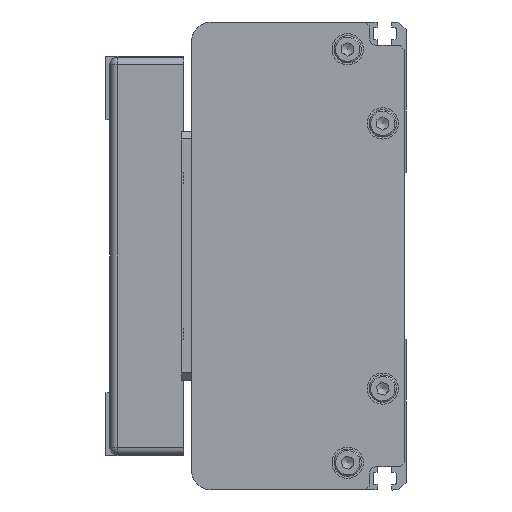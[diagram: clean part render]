
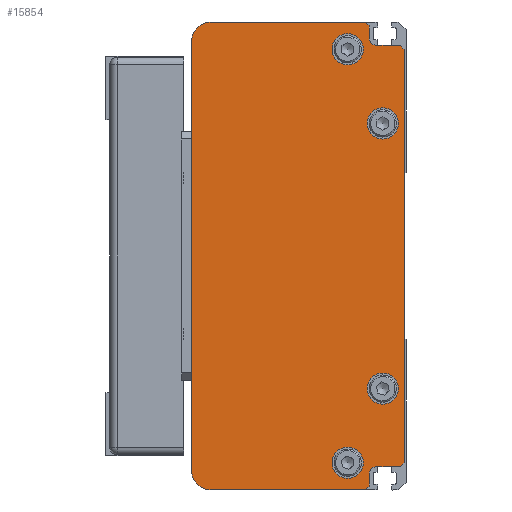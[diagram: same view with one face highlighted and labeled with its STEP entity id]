
A CAD part, left-side view. The second image highlights one B-rep face of the part: STEP entity #15854.
In plain terms, the highlighted planar face has unit normal (-1, 0, 0) as drawn and (0, 0, -1) by its records, which use the part's own axes.
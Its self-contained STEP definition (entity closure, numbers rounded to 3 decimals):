
#828=FACE_BOUND('',#2607,.T.);
#829=FACE_BOUND('',#2608,.T.);
#830=FACE_BOUND('',#2609,.T.);
#831=FACE_BOUND('',#2610,.T.);
#1144=CIRCLE('',#16986,5.);
#1145=CIRCLE('',#16988,5.);
#1146=CIRCLE('',#16989,2.);
#1147=CIRCLE('',#16990,2.);
#1148=CIRCLE('',#16991,4.);
#1149=CIRCLE('',#16992,4.);
#1150=CIRCLE('',#16993,4.);
#1151=CIRCLE('',#16994,4.);
#1576=FACE_OUTER_BOUND('',#2606,.T.);
#2606=EDGE_LOOP('',(#10916,#10917,#10918,#10919,#10920,#10921,#10922,#10923,
#10924,#10925,#10926,#10927,#10928,#10929,#10930,#10931));
#2607=EDGE_LOOP('',(#10932));
#2608=EDGE_LOOP('',(#10933));
#2609=EDGE_LOOP('',(#10934));
#2610=EDGE_LOOP('',(#10935));
#3849=LINE('',#22679,#5376);
#3850=LINE('',#22681,#5377);
#3851=LINE('',#22684,#5378);
#3852=LINE('',#22686,#5379);
#3853=LINE('',#22688,#5380);
#3854=LINE('',#22690,#5381);
#3855=LINE('',#22694,#5382);
#3856=LINE('',#22696,#5383);
#3857=LINE('',#22698,#5384);
#3858=LINE('',#22700,#5385);
#3859=LINE('',#22702,#5386);
#3860=LINE('',#22705,#5387);
#5376=VECTOR('',#18514,1.414);
#5377=VECTOR('',#18515,39.5);
#5378=VECTOR('',#18518,110.);
#5379=VECTOR('',#18519,39.5);
#5380=VECTOR('',#18520,1.414);
#5381=VECTOR('',#18521,3.);
#5382=VECTOR('',#18524,6.);
#5383=VECTOR('',#18525,1.414);
#5384=VECTOR('',#18526,106.);
#5385=VECTOR('',#18527,1.414);
#5386=VECTOR('',#18528,6.);
#5387=VECTOR('',#18531,3.);
#6937=VERTEX_POINT('',#22671);
#6938=VERTEX_POINT('',#22673);
#6939=VERTEX_POINT('',#22677);
#6940=VERTEX_POINT('',#22678);
#6941=VERTEX_POINT('',#22680);
#6942=VERTEX_POINT('',#22682);
#6943=VERTEX_POINT('',#22685);
#6944=VERTEX_POINT('',#22687);
#6945=VERTEX_POINT('',#22689);
#6946=VERTEX_POINT('',#22691);
#6947=VERTEX_POINT('',#22693);
#6948=VERTEX_POINT('',#22695);
#6949=VERTEX_POINT('',#22697);
#6950=VERTEX_POINT('',#22699);
#6951=VERTEX_POINT('',#22701);
#6952=VERTEX_POINT('',#22703);
#6953=VERTEX_POINT('',#22706);
#6954=VERTEX_POINT('',#22708);
#6955=VERTEX_POINT('',#22710);
#6956=VERTEX_POINT('',#22712);
#8525=EDGE_CURVE('',#6937,#6938,#1144,.T.);
#8527=EDGE_CURVE('',#6939,#6940,#3849,.T.);
#8528=EDGE_CURVE('',#6939,#6941,#3850,.T.);
#8529=EDGE_CURVE('',#6942,#6941,#1145,.T.);
#8530=EDGE_CURVE('',#6942,#6938,#3851,.T.);
#8531=EDGE_CURVE('',#6937,#6943,#3852,.T.);
#8532=EDGE_CURVE('',#6944,#6943,#3853,.T.);
#8533=EDGE_CURVE('',#6944,#6945,#3854,.T.);
#8534=EDGE_CURVE('',#6945,#6946,#1146,.T.);
#8535=EDGE_CURVE('',#6946,#6947,#3855,.T.);
#8536=EDGE_CURVE('',#6948,#6947,#3856,.T.);
#8537=EDGE_CURVE('',#6948,#6949,#3857,.T.);
#8538=EDGE_CURVE('',#6950,#6949,#3858,.T.);
#8539=EDGE_CURVE('',#6950,#6951,#3859,.T.);
#8540=EDGE_CURVE('',#6951,#6952,#1147,.T.);
#8541=EDGE_CURVE('',#6952,#6940,#3860,.T.);
#8542=EDGE_CURVE('',#6953,#6953,#1148,.T.);
#8543=EDGE_CURVE('',#6954,#6954,#1149,.T.);
#8544=EDGE_CURVE('',#6955,#6955,#1150,.T.);
#8545=EDGE_CURVE('',#6956,#6956,#1151,.T.);
#10916=ORIENTED_EDGE('',*,*,#8527,.F.);
#10917=ORIENTED_EDGE('',*,*,#8528,.T.);
#10918=ORIENTED_EDGE('',*,*,#8529,.F.);
#10919=ORIENTED_EDGE('',*,*,#8530,.T.);
#10920=ORIENTED_EDGE('',*,*,#8525,.F.);
#10921=ORIENTED_EDGE('',*,*,#8531,.T.);
#10922=ORIENTED_EDGE('',*,*,#8532,.F.);
#10923=ORIENTED_EDGE('',*,*,#8533,.T.);
#10924=ORIENTED_EDGE('',*,*,#8534,.T.);
#10925=ORIENTED_EDGE('',*,*,#8535,.T.);
#10926=ORIENTED_EDGE('',*,*,#8536,.F.);
#10927=ORIENTED_EDGE('',*,*,#8537,.T.);
#10928=ORIENTED_EDGE('',*,*,#8538,.F.);
#10929=ORIENTED_EDGE('',*,*,#8539,.T.);
#10930=ORIENTED_EDGE('',*,*,#8540,.T.);
#10931=ORIENTED_EDGE('',*,*,#8541,.T.);
#10932=ORIENTED_EDGE('',*,*,#8542,.T.);
#10933=ORIENTED_EDGE('',*,*,#8543,.T.);
#10934=ORIENTED_EDGE('',*,*,#8544,.T.);
#10935=ORIENTED_EDGE('',*,*,#8545,.T.);
#15230=PLANE('',#16987);
#15854=ADVANCED_FACE('',(#1576,#828,#829,#830,#831),#15230,.F.);
#16986=AXIS2_PLACEMENT_3D('',#22674,#18509,#18510);
#16987=AXIS2_PLACEMENT_3D('',#22676,#18512,#18513);
#16988=AXIS2_PLACEMENT_3D('',#22683,#18516,#18517);
#16989=AXIS2_PLACEMENT_3D('',#22692,#18522,#18523);
#16990=AXIS2_PLACEMENT_3D('',#22704,#18529,#18530);
#16991=AXIS2_PLACEMENT_3D('',#22707,#18532,#18533);
#16992=AXIS2_PLACEMENT_3D('',#22709,#18534,#18535);
#16993=AXIS2_PLACEMENT_3D('',#22711,#18536,#18537);
#16994=AXIS2_PLACEMENT_3D('',#22713,#18538,#18539);
#18509=DIRECTION('center_axis',(0.,0.,
1.));
#18510=DIRECTION('ref_axis',(0.707,0.707,0.));
#18512=DIRECTION('center_axis',(0.,0.,
1.));
#18513=DIRECTION('ref_axis',(-1.,-0.018,0.));
#18514=DIRECTION('',(0.707,-0.707,0.));
#18515=DIRECTION('',(0.,1.,0.));
#18516=DIRECTION('center_axis',(0.,0.,
1.));
#18517=DIRECTION('ref_axis',(-0.707,0.707,0.));
#18518=DIRECTION('',(1.,0.,0.));
#18519=DIRECTION('',(0.,-1.,0.));
#18520=DIRECTION('',(0.707,0.707,0.));
#18521=DIRECTION('',(-1.,0.,0.));
#18522=DIRECTION('center_axis',(0.,0.,
1.));
#18523=DIRECTION('ref_axis',(0.,-1.,0.));
#18524=DIRECTION('',(0.,-1.,0.));
#18525=DIRECTION('',(0.707,0.707,0.));
#18526=DIRECTION('',(-1.,0.,0.));
#18527=DIRECTION('',(0.707,-0.707,0.));
#18528=DIRECTION('',(0.,1.,0.));
#18529=DIRECTION('center_axis',(0.,0.,
1.));
#18530=DIRECTION('ref_axis',(1.,0.,0.));
#18531=DIRECTION('',(-1.,0.,0.));
#18532=DIRECTION('center_axis',(0.,0.,
1.));
#18533=DIRECTION('ref_axis',(0.,1.,0.));
#18534=DIRECTION('center_axis',(0.,0.,
1.));
#18535=DIRECTION('ref_axis',(0.,1.,0.));
#18536=DIRECTION('center_axis',(0.,0.,
1.));
#18537=DIRECTION('ref_axis',(0.,1.,0.));
#18538=DIRECTION('center_axis',(0.,0.,
1.));
#18539=DIRECTION('ref_axis',(0.,1.,0.));
#22671=CARTESIAN_POINT('',(124.75,50.75,-892.5));
#22673=CARTESIAN_POINT('',(119.75,55.75,-892.5));
#22674=CARTESIAN_POINT('Origin',(119.75,50.75,-892.5));
#22676=CARTESIAN_POINT('Origin',(64.75,28.5,-892.5));
#22677=CARTESIAN_POINT('',(4.75,11.25,-892.5));
#22678=CARTESIAN_POINT('',(5.75,10.25,-892.5));
#22679=CARTESIAN_POINT('',(4.75,11.25,-892.5));
#22680=CARTESIAN_POINT('',(4.75,50.75,-892.5));
#22681=CARTESIAN_POINT('',(4.75,11.25,-892.5));
#22682=CARTESIAN_POINT('',(9.75,55.75,-892.5));
#22683=CARTESIAN_POINT('Origin',(9.75,50.75,-892.5));
#22684=CARTESIAN_POINT('',(9.75,55.75,-892.5));
#22685=CARTESIAN_POINT('',(124.75,11.25,-892.5));
#22686=CARTESIAN_POINT('',(124.75,50.75,-892.5));
#22687=CARTESIAN_POINT('',(123.75,10.25,-892.5));
#22688=CARTESIAN_POINT('',(123.75,10.25,-892.5));
#22689=CARTESIAN_POINT('',(120.75,10.25,-892.5));
#22690=CARTESIAN_POINT('',(123.75,10.25,-892.5));
#22691=CARTESIAN_POINT('',(118.75,8.25,-892.5));
#22692=CARTESIAN_POINT('Origin',(120.75,8.25,-892.5));
#22693=CARTESIAN_POINT('',(118.75,2.25,-892.5));
#22694=CARTESIAN_POINT('',(118.75,8.25,-892.5));
#22695=CARTESIAN_POINT('',(117.75,1.25,-892.5));
#22696=CARTESIAN_POINT('',(117.75,1.25,-892.5));
#22697=CARTESIAN_POINT('',(11.75,1.25,-892.5));
#22698=CARTESIAN_POINT('',(117.75,1.25,-892.5));
#22699=CARTESIAN_POINT('',(10.75,2.25,-892.5));
#22700=CARTESIAN_POINT('',(10.75,2.25,-892.5));
#22701=CARTESIAN_POINT('',(10.75,8.25,-892.5));
#22702=CARTESIAN_POINT('',(10.75,2.25,-892.5));
#22703=CARTESIAN_POINT('',(8.75,10.25,-892.5));
#22704=CARTESIAN_POINT('Origin',(8.75,8.25,-892.5));
#22705=CARTESIAN_POINT('',(8.75,10.25,-892.5));
#22706=CARTESIAN_POINT('',(30.75,10.75,-892.5));
#22707=CARTESIAN_POINT('Origin',(30.75,6.75,-892.5));
#22708=CARTESIAN_POINT('',(98.75,10.75,-892.5));
#22709=CARTESIAN_POINT('Origin',(98.75,6.75,-892.5));
#22710=CARTESIAN_POINT('',(11.75,19.75,-892.5));
#22711=CARTESIAN_POINT('Origin',(11.75,15.75,-892.5));
#22712=CARTESIAN_POINT('',(117.75,19.75,-892.5));
#22713=CARTESIAN_POINT('Origin',(117.75,15.75,-892.5));
